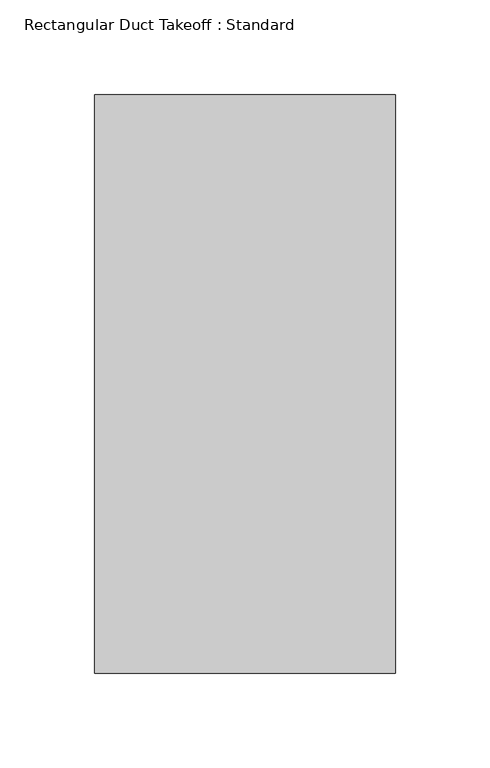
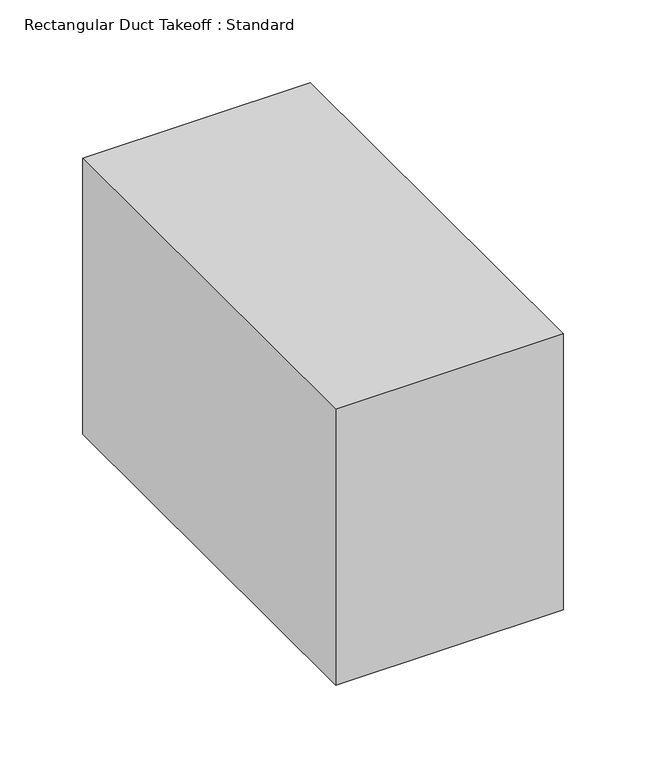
"""IFC4 building model written with IfcOpenShell, lengths in millimetres: duct fitting geometry, Rectangular Duct Takeoff : Standard."""

from ifc_helpers import new_model, si_unit, frame, origin, place, context, project, spatial, polyline, outline, extrude, source, transform, mapped, element, save


def rectangular_duct_takeoff_standard_44ffc3b4(model_context):
    return source(origin(), model_context, "Body", "SweptSolid", [
        extrude(outline(polyline([(-6.096, -152.4), (-6.096, 152.4), (152.4, 152.4), (152.4, -152.4), (-6.096, -152.4)])), frame((0.0, 0.0, -101.6), z_axis=(0.0, 0.0, 1.0), x_axis=(1.0, 0.0, 0.0)), (0.0, 0.0, 1.0), 203.2),
        extrude(outline(polyline([(-6.096, -152.4), (-6.096, 152.4), (152.4, 152.4), (152.4, -152.4), (-6.096, -152.4)])), frame((0.0, 0.0, -101.6), z_axis=(0.0, 0.0, 1.0), x_axis=(1.0, 0.0, 0.0)), (0.0, 0.0, 1.0), 203.2),
        extrude(outline(polyline([(-6.096, -152.4), (-6.096, 152.4), (152.4, 152.4), (152.4, -152.4), (-6.096, -152.4)])), frame((0.0, 0.0, -101.6), z_axis=(0.0, 0.0, 1.0), x_axis=(1.0, 0.0, 0.0)), (0.0, 0.0, 1.0), 203.2),
    ])


if __name__ == "__main__":
    model = new_model("IFC4")
    model_context = context("Model", 3, world=origin())
    ifc_project = project(units=[si_unit("LENGTHUNIT", "METRE", prefix="MILLI")], contexts=[model_context])
    site = spatial("IfcSite", under=ifc_project)
    building = spatial("IfcBuilding", under=site)
    placement = place(None, origin())
    rectangular_duct_takeoff_standard_shape = rectangular_duct_takeoff_standard_44ffc3b4(model_context)
    element("IfcDuctFitting", 1, ObjectType="Rectangular Duct Takeoff : Standard", at=placement, inside=building, context=model_context, shape_type="MappedRepresentation", body=[
        mapped(rectangular_duct_takeoff_standard_shape, transform((0.0, 0.0, 0.0), x_axis=(1.0, 0.0, 0.0), y_axis=(0.0, 1.0, 0.0), z_axis=(0.0, 0.0, 1.0))),
    ])
    save(model, "model.ifc")
